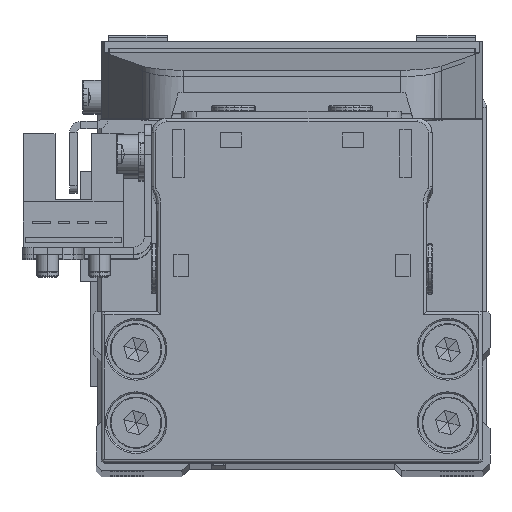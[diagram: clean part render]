
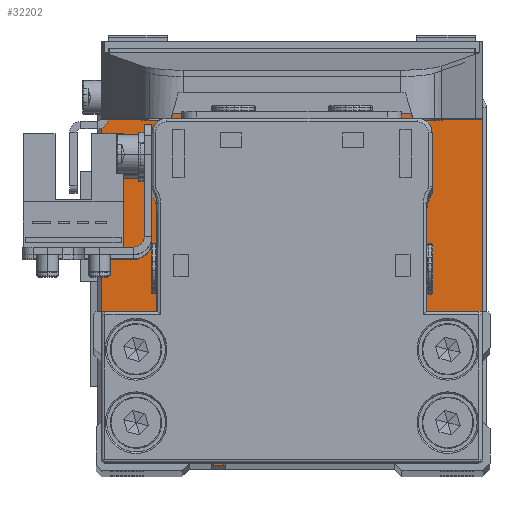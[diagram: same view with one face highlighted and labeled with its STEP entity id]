
A CAD part, top view. The second image highlights one B-rep face of the part: STEP entity #32202.
In plain terms, the highlighted planar face has unit normal (0, 0, 1).
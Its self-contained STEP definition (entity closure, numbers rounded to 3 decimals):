
#511 = DIRECTION ( 'NONE',  ( 0., 1., 0. ) ) ;
#635 = EDGE_CURVE ( 'NONE', #16156, #15989, #26797, .T. ) ;
#731 = DIRECTION ( 'NONE',  ( 0., 0., -1. ) ) ;
#765 = VERTEX_POINT ( 'NONE', #30066 ) ;
#1137 = DIRECTION ( 'NONE',  ( -1., 0., 0. ) ) ;
#1397 = VERTEX_POINT ( 'NONE', #5136 ) ;
#1523 = DIRECTION ( 'NONE',  ( -1., 0., 0. ) ) ;
#1864 = CIRCLE ( 'NONE', #21099, 2.4 ) ;
#2041 = EDGE_CURVE ( 'NONE', #19803, #12724, #13735, .T. ) ;
#2127 = LINE ( 'NONE', #12619, #8853 ) ;
#2313 = CARTESIAN_POINT ( 'NONE',  ( 0., 0., 6.5 ) ) ;
#2646 = ORIENTED_EDGE ( 'NONE', *, *, #28069, .T. ) ;
#3001 = CIRCLE ( 'NONE', #22248, 2.4 ) ;
#3068 = CARTESIAN_POINT ( 'NONE',  ( -23.65, 9.95, 6.5 ) ) ;
#3204 = CARTESIAN_POINT ( 'NONE',  ( 25., -24.95, 6.5 ) ) ;
#3563 = AXIS2_PLACEMENT_3D ( 'NONE', #12196, #22721, #33222 ) ;
#3565 = EDGE_LOOP ( 'NONE', ( #23654, #9600 ) ) ;
#3866 = DIRECTION ( 'NONE',  ( 0., 0., -1. ) ) ;
#3937 = ORIENTED_EDGE ( 'NONE', *, *, #7607, .T. ) ;
#4673 = EDGE_CURVE ( 'NONE', #27353, #16156, #18377, .T. ) ;
#4835 = VERTEX_POINT ( 'NONE', #23556 ) ;
#4887 = FACE_BOUND ( 'NONE', #4893, .T. ) ;
#4893 = EDGE_LOOP ( 'NONE', ( #10610, #16984 ) ) ;
#5094 = CARTESIAN_POINT ( 'NONE',  ( 23.65, 19.95, 6.5 ) ) ;
#5111 = DIRECTION ( 'NONE',  ( -1., 0., 0. ) ) ;
#5136 = CARTESIAN_POINT ( 'NONE',  ( 26., 23.95, 6.5 ) ) ;
#5233 = DIRECTION ( 'NONE',  ( 0., 0., 1. ) ) ;
#5301 = DIRECTION ( 'NONE',  ( 0., 0., 1. ) ) ;
#5339 = LINE ( 'NONE', #15853, #16630 ) ;
#5629 = EDGE_CURVE ( 'NONE', #15989, #10634, #11465, .T. ) ;
#6265 = VERTEX_POINT ( 'NONE', #3068 ) ;
#6343 = CIRCLE ( 'NONE', #25585, 2.4 ) ;
#6787 = VERTEX_POINT ( 'NONE', #18217 ) ;
#7406 = CARTESIAN_POINT ( 'NONE',  ( -21.25, 9.95, 6.5 ) ) ;
#7473 = FACE_BOUND ( 'NONE', #27495, .T. ) ;
#7607 = EDGE_CURVE ( 'NONE', #15326, #13419, #29802, .T. ) ;
#7659 = ORIENTED_EDGE ( 'NONE', *, *, #29726, .T. ) ;
#7821 = EDGE_LOOP ( 'NONE', ( #32122, #13914 ) ) ;
#8390 = CARTESIAN_POINT ( 'NONE',  ( 26., -23.95, 6.5 ) ) ;
#8731 = AXIS2_PLACEMENT_3D ( 'NONE', #28838, #5233, #15744 ) ;
#8853 = VECTOR ( 'NONE', #23142, 1000. ) ;
#9126 = EDGE_CURVE ( 'NONE', #1397, #30172, #23578, .T. ) ;
#9552 = DIRECTION ( 'NONE',  ( -1., 0., 0. ) ) ;
#9600 = ORIENTED_EDGE ( 'NONE', *, *, #26713, .T. ) ;
#9695 = DIRECTION ( 'NONE',  ( 1., 0., 0. ) ) ;
#10140 = CARTESIAN_POINT ( 'NONE',  ( -25., -24.95, 6.5 ) ) ;
#10610 = ORIENTED_EDGE ( 'NONE', *, *, #2041, .T. ) ;
#10634 = VERTEX_POINT ( 'NONE', #8390 ) ;
#10693 = CARTESIAN_POINT ( 'NONE',  ( -21.25, 9.95, 6.5 ) ) ;
#11184 = EDGE_CURVE ( 'NONE', #30172, #4835, #5339, .T. ) ;
#11230 = DIRECTION ( 'NONE',  ( -1., 0., 0. ) ) ;
#11252 = EDGE_CURVE ( 'NONE', #10634, #1397, #13600, .T. ) ;
#11465 = CIRCLE ( 'NONE', #30724, 1. ) ;
#11762 = ORIENTED_EDGE ( 'NONE', *, *, #11184, .T. ) ;
#12196 = CARTESIAN_POINT ( 'NONE',  ( -25., -23.95, 6.5 ) ) ;
#12275 = CIRCLE ( 'NONE', #31538, 2.4 ) ;
#12619 = CARTESIAN_POINT ( 'NONE',  ( -26., -23.95, 6.5 ) ) ;
#12724 = VERTEX_POINT ( 'NONE', #13993 ) ;
#12743 = ORIENTED_EDGE ( 'NONE', *, *, #635, .T. ) ;
#12808 = DIRECTION ( 'NONE',  ( 0., 0., 1. ) ) ;
#13419 = VERTEX_POINT ( 'NONE', #5094 ) ;
#13600 = LINE ( 'NONE', #24121, #23784 ) ;
#13695 = DIRECTION ( 'NONE',  ( 1., 0., 0. ) ) ;
#13735 = CIRCLE ( 'NONE', #32997, 2.4 ) ;
#13914 = ORIENTED_EDGE ( 'NONE', *, *, #16459, .T. ) ;
#13993 = CARTESIAN_POINT ( 'NONE',  ( -18.85, 19.95, 6.5 ) ) ;
#14221 = CARTESIAN_POINT ( 'NONE',  ( -21.25, 19.95, 6.5 ) ) ;
#14367 = DIRECTION ( 'NONE',  ( -1., 0., 0. ) ) ;
#14389 = AXIS2_PLACEMENT_3D ( 'NONE', #28910, #5301, #15813 ) ;
#14609 = CARTESIAN_POINT ( 'NONE',  ( 21.25, 9.95, 6.5 ) ) ;
#14678 = ORIENTED_EDGE ( 'NONE', *, *, #4673, .T. ) ;
#14926 = AXIS2_PLACEMENT_3D ( 'NONE', #22651, #33155, #9552 ) ;
#15326 = VERTEX_POINT ( 'NONE', #18482 ) ;
#15327 = EDGE_CURVE ( 'NONE', #6265, #26894, #21837, .T. ) ;
#15401 = FACE_OUTER_BOUND ( 'NONE', #23162, .T. ) ;
#15744 = DIRECTION ( 'NONE',  ( 1., 0., 0. ) ) ;
#15813 = DIRECTION ( 'NONE',  ( 1., 0., 0. ) ) ;
#15853 = CARTESIAN_POINT ( 'NONE',  ( -25., 24.95, 6.5 ) ) ;
#15989 = VERTEX_POINT ( 'NONE', #30168 ) ;
#16156 = VERTEX_POINT ( 'NONE', #10140 ) ;
#16250 = ORIENTED_EDGE ( 'NONE', *, *, #9126, .T. ) ;
#16350 = CARTESIAN_POINT ( 'NONE',  ( -18.85, 9.95, 6.5 ) ) ;
#16459 = EDGE_CURVE ( 'NONE', #6787, #765, #33377, .T. ) ;
#16630 = VECTOR ( 'NONE', #26364, 1000. ) ;
#16984 = ORIENTED_EDGE ( 'NONE', *, *, #25842, .T. ) ;
#17896 = DIRECTION ( 'NONE',  ( 0., 0., -1. ) ) ;
#17971 = FACE_BOUND ( 'NONE', #7821, .T. ) ;
#18190 = CARTESIAN_POINT ( 'NONE',  ( -21.25, 19.95, 6.5 ) ) ;
#18217 = CARTESIAN_POINT ( 'NONE',  ( 23.65, 9.95, 6.5 ) ) ;
#18377 = CIRCLE ( 'NONE', #3563, 1. ) ;
#18482 = CARTESIAN_POINT ( 'NONE',  ( 18.85, 19.95, 6.5 ) ) ;
#18512 = AXIS2_PLACEMENT_3D ( 'NONE', #14609, #25116, #1523 ) ;
#19803 = VERTEX_POINT ( 'NONE', #25776 ) ;
#20517 = ORIENTED_EDGE ( 'NONE', *, *, #5629, .T. ) ;
#21099 = AXIS2_PLACEMENT_3D ( 'NONE', #7406, #17896, #28415 ) ;
#21205 = DIRECTION ( 'NONE',  ( 0., 0., -1. ) ) ;
#21837 = CIRCLE ( 'NONE', #26246, 2.4 ) ;
#21876 = EDGE_CURVE ( 'NONE', #765, #6787, #12275, .T. ) ;
#22248 = AXIS2_PLACEMENT_3D ( 'NONE', #18190, #28716, #5111 ) ;
#22651 = CARTESIAN_POINT ( 'NONE',  ( 21.25, 19.95, 6.5 ) ) ;
#22721 = DIRECTION ( 'NONE',  ( 0., 0., 1. ) ) ;
#22806 = CARTESIAN_POINT ( 'NONE',  ( 25., -23.95, 6.5 ) ) ;
#23142 = DIRECTION ( 'NONE',  ( 0., -1., 0. ) ) ;
#23162 = EDGE_LOOP ( 'NONE', ( #23266, #7659, #14678, #12743, #20517, #25435, #16250, #11762 ) ) ;
#23266 = ORIENTED_EDGE ( 'NONE', *, *, #30215, .T. ) ;
#23324 = DIRECTION ( 'NONE',  ( 1., 0., 0. ) ) ;
#23556 = CARTESIAN_POINT ( 'NONE',  ( -25., 24.95, 6.5 ) ) ;
#23578 = CIRCLE ( 'NONE', #8731, 1. ) ;
#23654 = ORIENTED_EDGE ( 'NONE', *, *, #15327, .T. ) ;
#23784 = VECTOR ( 'NONE', #511, 1000. ) ;
#24058 = VECTOR ( 'NONE', #13695, 1000. ) ;
#24121 = CARTESIAN_POINT ( 'NONE',  ( 26., 23.95, 6.5 ) ) ;
#24333 = CARTESIAN_POINT ( 'NONE',  ( 21.25, 19.95, 6.5 ) ) ;
#24731 = DIRECTION ( 'NONE',  ( 0., 0., -1. ) ) ;
#25017 = VERTEX_POINT ( 'NONE', #29313 ) ;
#25116 = DIRECTION ( 'NONE',  ( 0., 0., -1. ) ) ;
#25435 = ORIENTED_EDGE ( 'NONE', *, *, #11252, .T. ) ;
#25585 = AXIS2_PLACEMENT_3D ( 'NONE', #24333, #731, #11230 ) ;
#25776 = CARTESIAN_POINT ( 'NONE',  ( -23.65, 19.95, 6.5 ) ) ;
#25842 = EDGE_CURVE ( 'NONE', #12724, #19803, #3001, .T. ) ;
#25907 = PLANE ( 'NONE',  #30630 ) ;
#26246 = AXIS2_PLACEMENT_3D ( 'NONE', #10693, #21205, #31729 ) ;
#26364 = DIRECTION ( 'NONE',  ( -1., 0., 0. ) ) ;
#26713 = EDGE_CURVE ( 'NONE', #26894, #6265, #1864, .T. ) ;
#26797 = LINE ( 'NONE', #3204, #24058 ) ;
#26894 = VERTEX_POINT ( 'NONE', #16350 ) ;
#27353 = VERTEX_POINT ( 'NONE', #29580 ) ;
#27459 = CARTESIAN_POINT ( 'NONE',  ( 21.25, 9.95, 6.5 ) ) ;
#27495 = EDGE_LOOP ( 'NONE', ( #3937, #2646 ) ) ;
#28069 = EDGE_CURVE ( 'NONE', #13419, #15326, #6343, .T. ) ;
#28415 = DIRECTION ( 'NONE',  ( -1., 0., 0. ) ) ;
#28491 = FACE_BOUND ( 'NONE', #3565, .T. ) ;
#28716 = DIRECTION ( 'NONE',  ( 0., 0., -1. ) ) ;
#28838 = CARTESIAN_POINT ( 'NONE',  ( 25., 23.95, 6.5 ) ) ;
#28910 = CARTESIAN_POINT ( 'NONE',  ( -25., 23.95, 6.5 ) ) ;
#29244 = CIRCLE ( 'NONE', #14389, 1. ) ;
#29313 = CARTESIAN_POINT ( 'NONE',  ( -26., 23.95, 6.5 ) ) ;
#29580 = CARTESIAN_POINT ( 'NONE',  ( -26., -23.95, 6.5 ) ) ;
#29726 = EDGE_CURVE ( 'NONE', #25017, #27353, #2127, .T. ) ;
#29802 = CIRCLE ( 'NONE', #14926, 2.4 ) ;
#30066 = CARTESIAN_POINT ( 'NONE',  ( 18.85, 9.95, 6.5 ) ) ;
#30168 = CARTESIAN_POINT ( 'NONE',  ( 25., -24.95, 6.5 ) ) ;
#30172 = VERTEX_POINT ( 'NONE', #31319 ) ;
#30215 = EDGE_CURVE ( 'NONE', #4835, #25017, #29244, .T. ) ;
#30630 = AXIS2_PLACEMENT_3D ( 'NONE', #2313, #12808, #23324 ) ;
#30724 = AXIS2_PLACEMENT_3D ( 'NONE', #22806, #33304, #9695 ) ;
#31319 = CARTESIAN_POINT ( 'NONE',  ( 25., 24.95, 6.5 ) ) ;
#31538 = AXIS2_PLACEMENT_3D ( 'NONE', #27459, #3866, #14367 ) ;
#31729 = DIRECTION ( 'NONE',  ( -1., 0., 0. ) ) ;
#32122 = ORIENTED_EDGE ( 'NONE', *, *, #21876, .T. ) ;
#32202 = ADVANCED_FACE ( 'NONE', ( #7473, #17971, #28491, #4887, #15401 ), #25907, .T. ) ;
#32997 = AXIS2_PLACEMENT_3D ( 'NONE', #14221, #24731, #1137 ) ;
#33155 = DIRECTION ( 'NONE',  ( 0., 0., -1. ) ) ;
#33222 = DIRECTION ( 'NONE',  ( 1., 0., 0. ) ) ;
#33304 = DIRECTION ( 'NONE',  ( 0., 0., 1. ) ) ;
#33377 = CIRCLE ( 'NONE', #18512, 2.4 ) ;
